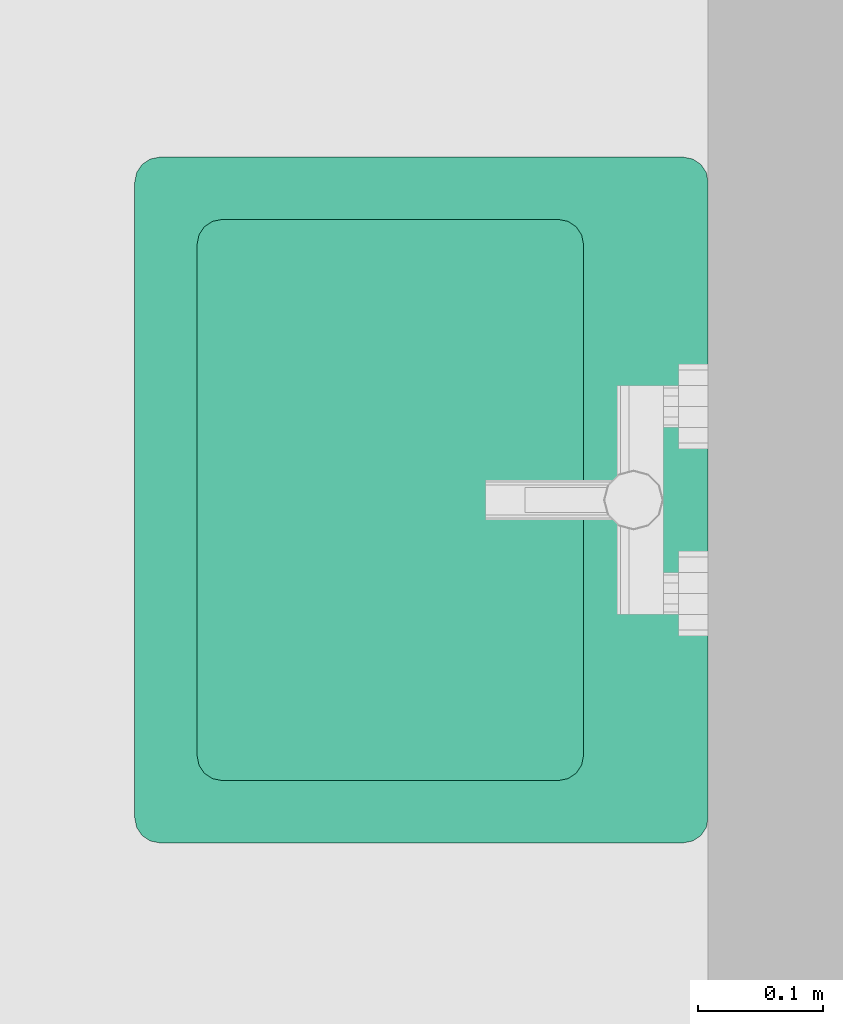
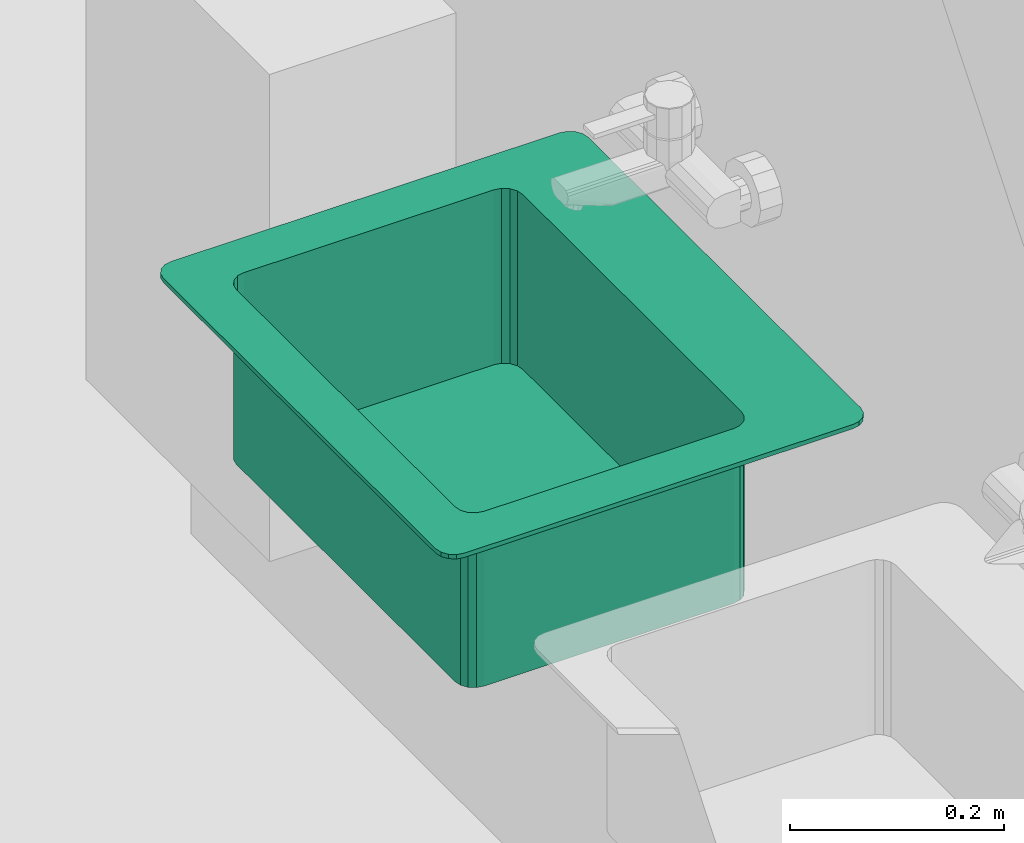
# One storey, part 251 of 301: 1 flow terminal.
"""IFC2X3 building model written with IfcOpenShell, lengths in millimetres."""

from ifc_helpers import new_model, entity, si_unit, converted_unit, derived_unit, money_unit, direction, frame, origin_with_axes, place, context, subcontext, project, spatial, open_shell, faceted_brep, surface_model, source, transform, mapped, type_object, element, save


model = new_model("IFC2X3")

# Units and contexts
model_context = context("Model", 3, precision=0.01, world=origin_with_axes(), true_north=direction((0.0, 1.0)))
body_context = subcontext(model_context, "Body", "Model", "MODEL_VIEW")
ifc_project = project(units=[si_unit("LENGTHUNIT", "METRE", prefix="MILLI"), si_unit("AREAUNIT", "SQUARE_METRE"), si_unit("VOLUMEUNIT", "CUBIC_METRE"), converted_unit("PLANEANGLEUNIT", "DEGREE", entity("IfcPlaneAngleMeasure", 0.0174532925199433), si_unit("PLANEANGLEUNIT", "RADIAN"), dimensions=[0, 0, 0, 0, 0, 0, 0]), money_unit("EUR"), converted_unit("TIMEUNIT", "Year", entity("IfcTimeMeasure", 31557600.0), si_unit("TIMEUNIT", "SECOND"), dimensions=[0, 0, 1, 0, 0, 0, 0]), si_unit("MASSUNIT", "GRAM", prefix="KILO"), si_unit("THERMODYNAMICTEMPERATUREUNIT", "DEGREE_CELSIUS"), si_unit("LUMINOUSINTENSITYUNIT", "LUMEN"), si_unit("ENERGYUNIT", "JOULE", prefix="MEGA"), derived_unit("THERMALCONDUCTANCEUNIT", [(si_unit("POWERUNIT", "WATT"), 1), (si_unit("LENGTHUNIT", "METRE"), -1), (si_unit("THERMODYNAMICTEMPERATUREUNIT", "KELVIN"), -1)]), derived_unit("SPECIFICHEATCAPACITYUNIT", [(si_unit("ENERGYUNIT", "JOULE"), 1), (si_unit("MASSUNIT", "GRAM", prefix="KILO"), -1), (si_unit("THERMODYNAMICTEMPERATUREUNIT", "KELVIN"), -1)]), derived_unit("MASSDENSITYUNIT", [(si_unit("MASSUNIT", "GRAM", prefix="KILO"), 1), (si_unit("VOLUMEUNIT", "CUBIC_METRE"), -1)])], contexts=[model_context])

# Site, building, storey
site_placement = place(None, frame((0.0, 0.0, 8650.0), z_axis=(0.0, 0.0, 1.0), x_axis=(1.0, 0.0, 0.0)))
site = spatial("IfcSite", under=ifc_project, at=site_placement, Name="43301:001:0844", CompositionType="ELEMENT")
building_placement = place(site_placement, origin_with_axes())
building = spatial("IfcBuilding", under=site, at=building_placement, Name="Kuressaare Ametikooli tuulikute mehaanikute õppekorpus", CompositionType="ELEMENT")
storey_placement = place(building_placement, origin_with_axes())
storey = spatial("IfcBuildingStorey", under=building, at=storey_placement, Name="1.korrus", CompositionType="ELEMENT", Elevation=0.0)

# Flow terminal
sanitary_terminal_type = type_object("IfcSanitaryTerminalType", Name="Sink General 27", PredefinedType="NOTDEFINED")
shared_shape = source(origin_with_axes(), body_context, "Body", "SurfaceModel", [
    surface_model("IfcShellBasedSurfaceModel", [(-70.0, 50.0, 705.0), (-70.0, 50.0, 899.9999999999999), (-479.9999999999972, 50.0, 899.9999999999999), (-479.9999999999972, 50.0, 705.0), (-62.34633135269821, 51.52240934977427, 705.0), (-62.34633135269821, 51.52240934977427, 899.9999999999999), (-487.6536686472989, 51.52240934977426, 899.9999999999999), (-487.6536686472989, 51.52240934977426, 705.0), (-494.1421356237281, 55.85786437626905, 705.0), (-498.4775906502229, 62.3463313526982, 705.0), (-499.9999999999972, 70.0, 705.0), (-499.9999999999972, 340.0000000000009, 705.0), (-498.4775906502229, 347.6536686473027, 705.0), (-494.1421356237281, 354.1421356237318, 705.0), (-487.653668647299, 358.4775906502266, 705.0), (-479.9999999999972, 360.0000000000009, 705.0), (-70.0, 360.0000000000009, 705.0), (-62.34633135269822, 358.4775906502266, 705.0), (-55.85786437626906, 354.1421356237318, 705.0), (-51.52240934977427, 347.6536686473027, 705.0), (-50.0, 340.0000000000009, 705.0), (-50.0, 70.0, 705.0), (-51.52240934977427, 62.34633135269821, 705.0), (-55.85786437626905, 55.85786437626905, 705.0), (-55.85786437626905, 55.85786437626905, 899.9999999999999), (-494.1421356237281, 55.85786437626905, 899.9999999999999), (-498.4775906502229, 62.3463313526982, 899.9999999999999), (-499.9999999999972, 70.0, 899.9999999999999), (-499.9999999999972, 340.0000000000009, 899.9999999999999), (-498.4775906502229, 347.6536686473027, 899.9999999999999), (-494.1421356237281, 354.1421356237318, 899.9999999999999), (-487.653668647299, 358.4775906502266, 899.9999999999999), (-479.9999999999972, 360.0000000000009, 899.9999999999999), (-70.0, 360.0000000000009, 899.9999999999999), (-62.34633135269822, 358.4775906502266, 899.9999999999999), (-55.85786437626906, 354.1421356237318, 899.9999999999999), (-51.52240934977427, 347.6536686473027, 899.9999999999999), (-50.0, 340.0000000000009, 899.9999999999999), (-50.0, 70.0, 899.9999999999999), (-51.52240934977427, 62.34633135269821, 899.9999999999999)], [open_shell([[[0, 1, 2, 3]], [[4, 5, 1, 0]], [[3, 2, 6, 7]], [[0, 3, 7, 8, 9, 10, 11, 12, 13, 14, 15, 16, 17, 18, 19, 20, 21, 22, 23, 4]], [[23, 24, 5, 4]], [[7, 6, 25, 8]], [[8, 25, 26, 9]], [[9, 26, 27, 10]], [[10, 27, 28, 11]], [[11, 28, 29, 12]], [[12, 29, 30, 13]], [[13, 30, 31, 14]], [[14, 31, 32, 15]], [[15, 32, 33, 16]], [[16, 33, 34, 17]], [[17, 34, 35, 18]], [[18, 35, 36, 19]], [[19, 36, 37, 20]], [[20, 37, 38, 21]], [[21, 38, 39, 22]], [[22, 39, 24, 23]]])]),
    faceted_brep([(-20.0, 0.0, 899.9999999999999), (-20.0, 0.0, 904.9999999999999), (-529.9999999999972, 0.0, 904.9999999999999), (-529.9999999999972, 0.0, 899.9999999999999), (-12.34633135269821, 1.522409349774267, 899.9999999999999), (-12.34633135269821, 1.522409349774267, 904.9999999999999), (-5.857864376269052, 5.857864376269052, 904.9999999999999), (-1.522409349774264, 12.34633135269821, 904.9999999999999), (0.0, 20.0, 904.9999999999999), (0.0, 440.0000000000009, 904.9999999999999), (-1.522409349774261, 447.6536686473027, 904.9999999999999), (-5.85786437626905, 454.1421356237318, 904.9999999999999), (-12.34633135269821, 458.4775906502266, 904.9999999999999), (-20.0, 460.0000000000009, 904.9999999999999), (-529.9999999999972, 460.0000000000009, 904.9999999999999), (-537.6536686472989, 458.4775906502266, 904.9999999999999), (-544.1421356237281, 454.1421356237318, 904.9999999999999), (-548.4775906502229, 447.6536686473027, 904.9999999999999), (-549.9999999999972, 440.0000000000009, 904.9999999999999), (-549.9999999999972, 20.0, 904.9999999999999), (-548.4775906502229, 12.3463313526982, 904.9999999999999), (-544.142135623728, 5.857864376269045, 904.9999999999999), (-537.6536686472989, 1.522409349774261, 904.9999999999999), (-70.0, 50.0, 904.9999999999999), (-479.9999999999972, 50.0, 904.9999999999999), (-487.6536686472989, 51.52240934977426, 904.9999999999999), (-494.1421356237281, 55.85786437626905, 904.9999999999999), (-498.4775906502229, 62.3463313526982, 904.9999999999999), (-499.9999999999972, 70.0, 904.9999999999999), (-499.9999999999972, 340.0000000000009, 904.9999999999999), (-498.4775906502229, 347.6536686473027, 904.9999999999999), (-494.1421356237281, 354.1421356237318, 904.9999999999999), (-487.653668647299, 358.4775906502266, 904.9999999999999), (-479.9999999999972, 360.0000000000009, 904.9999999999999), (-70.0, 360.0000000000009, 904.9999999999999), (-62.34633135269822, 358.4775906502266, 904.9999999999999), (-55.85786437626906, 354.1421356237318, 904.9999999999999), (-51.52240934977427, 347.6536686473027, 904.9999999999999), (-50.0, 340.0000000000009, 904.9999999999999), (-50.0, 70.0, 904.9999999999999), (-51.52240934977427, 62.34633135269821, 904.9999999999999), (-55.85786437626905, 55.85786437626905, 904.9999999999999), (-62.34633135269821, 51.52240934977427, 904.9999999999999), (-537.6536686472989, 1.522409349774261, 899.9999999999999), (-544.142135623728, 5.857864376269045, 899.9999999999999), (-548.4775906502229, 12.3463313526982, 899.9999999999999), (-549.9999999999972, 20.0, 899.9999999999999), (-549.9999999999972, 440.0000000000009, 899.9999999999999), (-548.4775906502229, 447.6536686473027, 899.9999999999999), (-544.1421356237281, 454.1421356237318, 899.9999999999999), (-537.6536686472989, 458.4775906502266, 899.9999999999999), (-529.9999999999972, 460.0000000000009, 899.9999999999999), (-20.0, 460.0000000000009, 899.9999999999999), (-12.34633135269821, 458.4775906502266, 899.9999999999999), (-5.85786437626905, 454.1421356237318, 899.9999999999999), (-1.522409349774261, 447.6536686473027, 899.9999999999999), (0.0, 440.0000000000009, 899.9999999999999), (0.0, 20.0, 899.9999999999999), (-1.522409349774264, 12.34633135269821, 899.9999999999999), (-5.857864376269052, 5.857864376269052, 899.9999999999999), (-70.0, 50.0, 899.9999999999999), (-62.34633135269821, 51.52240934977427, 899.9999999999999), (-55.85786437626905, 55.85786437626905, 899.9999999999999), (-51.52240934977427, 62.34633135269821, 899.9999999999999), (-50.0, 70.0, 899.9999999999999), (-50.0, 340.0000000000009, 899.9999999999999), (-51.52240934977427, 347.6536686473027, 899.9999999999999), (-55.85786437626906, 354.1421356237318, 899.9999999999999), (-62.34633135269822, 358.4775906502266, 899.9999999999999), (-70.0, 360.0000000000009, 899.9999999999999), (-479.9999999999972, 360.0000000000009, 899.9999999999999), (-487.653668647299, 358.4775906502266, 899.9999999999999), (-494.1421356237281, 354.1421356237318, 899.9999999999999), (-498.4775906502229, 347.6536686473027, 899.9999999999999), (-499.9999999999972, 340.0000000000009, 899.9999999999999), (-499.9999999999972, 70.0, 899.9999999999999), (-498.4775906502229, 62.3463313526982, 899.9999999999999), (-494.1421356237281, 55.85786437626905, 899.9999999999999), (-487.6536686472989, 51.52240934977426, 899.9999999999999), (-479.9999999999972, 50.0, 899.9999999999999)], [[[0, 1, 2, 3]], [[4, 5, 1, 0]], [[1, 5, 6, 7, 8, 9, 10, 11, 12, 13, 14, 15, 16, 17, 18, 19, 20, 21, 22, 2], [23, 24, 25, 26, 27, 28, 29, 30, 31, 32, 33, 34, 35, 36, 37, 38, 39, 40, 41, 42]], [[3, 2, 22, 43]], [[0, 3, 43, 44, 45, 46, 47, 48, 49, 50, 51, 52, 53, 54, 55, 56, 57, 58, 59, 4], [60, 61, 62, 63, 64, 65, 66, 67, 68, 69, 70, 71, 72, 73, 74, 75, 76, 77, 78, 79]], [[59, 6, 5, 4]], [[58, 7, 6, 59]], [[57, 8, 7, 58]], [[56, 9, 8, 57]], [[55, 10, 9, 56]], [[54, 11, 10, 55]], [[53, 12, 11, 54]], [[52, 13, 12, 53]], [[51, 14, 13, 52]], [[50, 15, 14, 51]], [[49, 16, 15, 50]], [[48, 17, 16, 49]], [[47, 18, 17, 48]], [[46, 19, 18, 47]], [[45, 20, 19, 46]], [[44, 21, 20, 45]], [[43, 22, 21, 44]], [[79, 24, 23, 60]], [[78, 25, 24, 79]], [[77, 26, 25, 78]], [[76, 27, 26, 77]], [[75, 28, 27, 76]], [[74, 29, 28, 75]], [[73, 30, 29, 74]], [[72, 31, 30, 73]], [[71, 32, 31, 72]], [[70, 33, 32, 71]], [[69, 34, 33, 70]], [[68, 35, 34, 69]], [[67, 36, 35, 68]], [[66, 37, 36, 67]], [[65, 38, 37, 66]], [[64, 39, 38, 65]], [[63, 40, 39, 64]], [[62, 41, 40, 63]], [[61, 42, 41, 62]], [[60, 23, 42, 61]]]),
])
flow_terminal_placement = place(storey_placement, frame((100517.9522847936, 19489.79367841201, 0.0), z_axis=(0.0, 0.0, 1.0), x_axis=(0.0, -1.0, 0.0)))
element("IfcFlowTerminal", 1, at=flow_terminal_placement, inside=storey, type_object=sanitary_terminal_type, Name="V3", context=body_context, shape_type="MappedRepresentation", body=[
    mapped(shared_shape, transform((0.0, 0.0, 0.0))),
])

save(model, "model.ifc")
